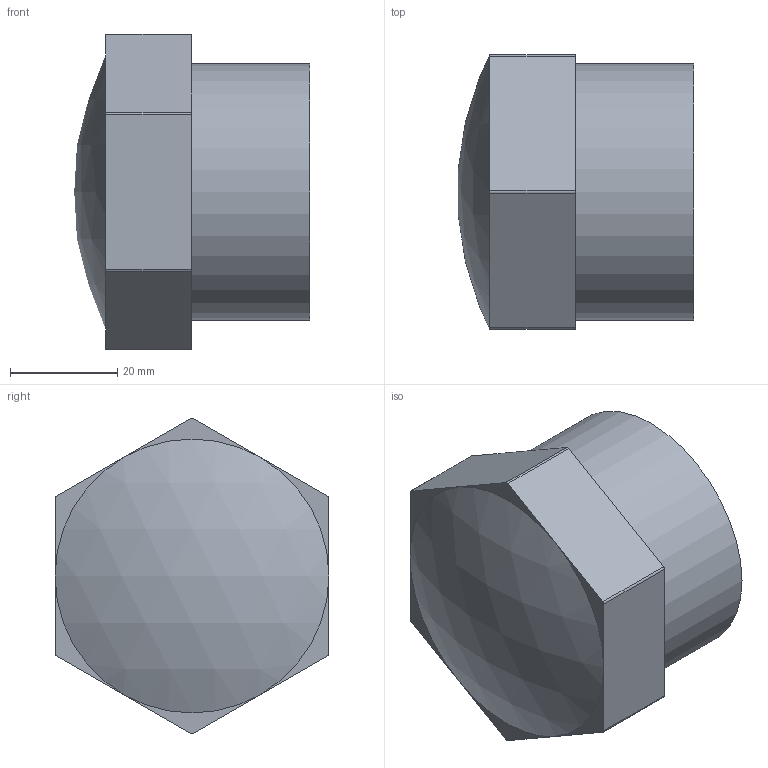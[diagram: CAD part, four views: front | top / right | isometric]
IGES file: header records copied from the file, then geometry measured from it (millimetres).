
Global section: file name: 051701015.ipt; native system: Autodesk Inventor 2015; preprocessor: unknown; author: KIM; date: 20171207.165341; units: millimetre
Bounding box: 43.83 x 51 x 58.73 mm (x, y, z)
Volume: 44070.6 mm3; surface area: 14493.4 mm2
Topology: 1 solids, 1 shells, 24 faces, 56 edges, 36 vertices
Faces by surface type: plane 14, cylinder 7, revolution 2, sphere 1
Full cylindrical faces by diameter (mm): 47.803 x1
